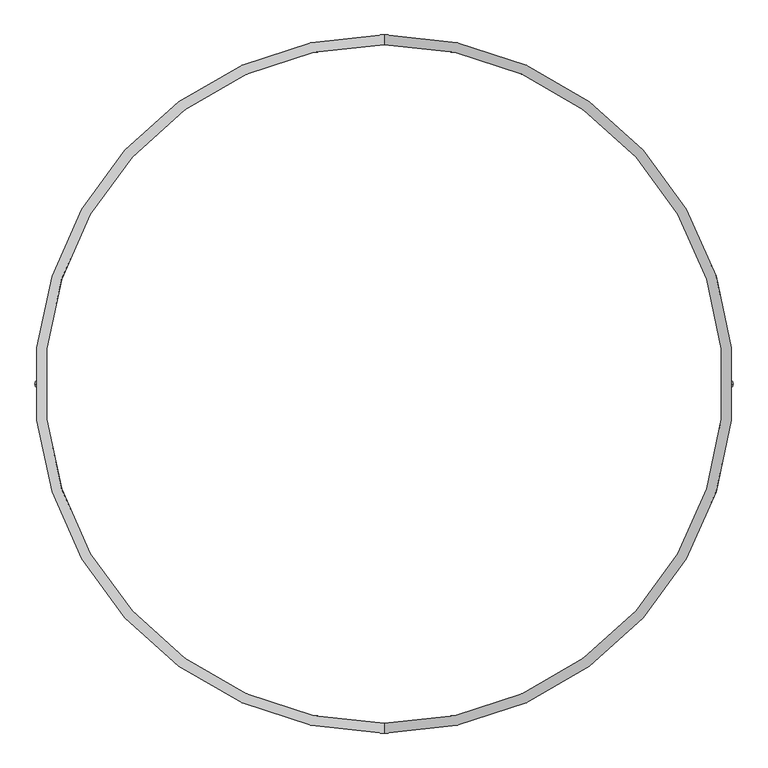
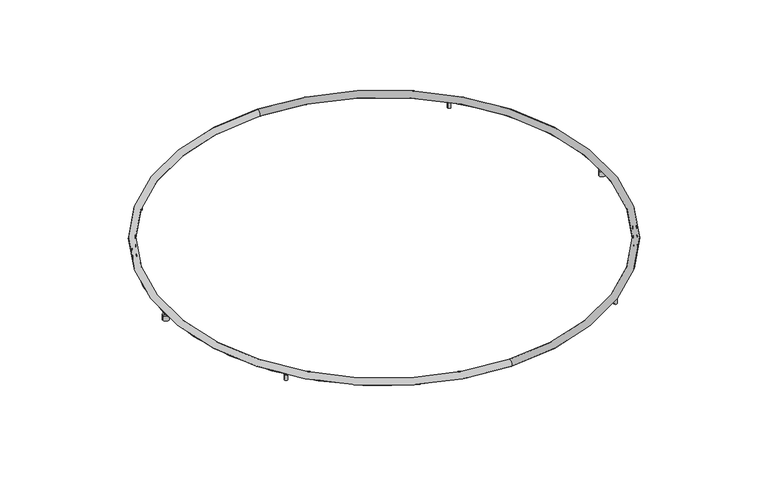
"""IFC4 building model written with IfcOpenShell, lengths in millimetres: light fixture geometry, ARTEMIDE-AoL-StandAlone-Circular_WallCeiling : StandALone_SemiRecessed_Circular-3500mm 21478lm 3000K."""

from ifc_helpers import new_model, si_unit, point, frame, origin, place, context, project, spatial, polyline, circle_curve, ellipse_curve, trimmed, source, transform, mapped, element, save
from ifc_brep_helpers import plane_surface, cylinder_surface, revolved_surface, advanced_brep


def light_fixture_23e87f60(model_context):
    return source(origin(), model_context, "Body", "AdvancedBrep", [
        advanced_brep(
        [(3450.0, 0.0, 54.0), (3462.0, 0.0, 54.0), (3438.0, 0.0, 54.0), (3425.0, 0.0, 0.0), (3475.0, 0.0, 0.0), (3450.0, 0.0, 0.0), (3425.0, 0.0, 37.5120373), (3475.0, 0.0, 37.5120373), (3438.0, 0.0, 44.4453706), (3462.0, 0.0, 44.4453706)],
        [
            (0, 1),
            (1, 2, circle_curve(frame((3450.0, 0.0, 54.0), z_axis=(0.0, 0.0, 1.0), x_axis=(1.0, 0.0, 0.0)), 12.0)),
            (2, 0),
            (2, 1, circle_curve(frame((3450.0, 0.0, 54.0), z_axis=(0.0, 0.0, 1.0), x_axis=(1.0, 0.0, 0.0)), 12.0)),
            (3, 4, circle_curve(frame((3450.0, 0.0, 0.0), z_axis=(0.0, 0.0, -1.0), x_axis=(1.0, 0.0, 0.0)), 25.0)),
            (4, 5),
            (5, 3),
            (4, 3, circle_curve(frame((3450.0, 0.0, 0.0), z_axis=(0.0, 0.0, -1.0), x_axis=(1.0, 0.0, 0.0)), 25.0)),
            (6, 7, circle_curve(frame((3450.0, 0.0, 37.5120373), z_axis=(0.0, 0.0, -1.0), x_axis=(1.0, 0.0, 0.0)), 25.0)),
            (7, 4),
            (3, 6),
            (7, 6, circle_curve(frame((3450.0, 0.0, 37.5120373), z_axis=(0.0, 0.0, -1.0), x_axis=(1.0, 0.0, 0.0)), 25.0)),
            (8, 9, circle_curve(frame((3450.0, 0.0, 44.4453706), z_axis=(0.0, 0.0, -1.0), x_axis=(1.0, 0.0, 0.0)), 12.0)),
            (9, 7),
            (6, 8),
            (9, 8, circle_curve(frame((3450.0, 0.0, 44.4453706), z_axis=(0.0, 0.0, -1.0), x_axis=(1.0, 0.0, 0.0)), 12.0)),
            (1, 9),
            (8, 2),
        ],
        [
            plane_surface(frame((3450.0, 0.0, 54.0), z_axis=(0.0, 0.0, 1.0), x_axis=(1.0, 0.0, 0.0))),
            plane_surface(frame((3450.0, 0.0, 0.0), z_axis=(0.0, 0.0, -1.0), x_axis=(1.0, 0.0, 0.0))),
            cylinder_surface(frame((3450.0, 0.0, -58.83358), z_axis=(0.0, 0.0, 1.0), x_axis=(1.0, 0.0, 0.0)), 25.0),
            revolved_surface(polyline([(3475.0, 0.0, 37.5120373), (3462.0, 0.0, 44.4453706)]), (3450.0, 0.0, -58.83358), (0.0, 0.0, 1.0)),
            cylinder_surface(frame((3450.0, 0.0, -58.83358), z_axis=(0.0, 0.0, 1.0), x_axis=(1.0, 0.0, 0.0)), 12.0),
        ],
        [
            (0, [[1, 2, 3]]),
            (0, [[-3, 4, -1]]),
            (1, [[5, 6, 7]]),
            (1, [[8, -7, -6]]),
            (2, [[9, 10, -5, 11]]),
            (2, [[12, -11, -8, -10]]),
            (3, [[13, 14, -9, 15]]),
            (3, [[16, -15, -12, -14]]),
            (4, [[-2, 17, -13, 18]]),
            (4, [[-4, -18, -16, -17]]),
        ],
    ),
        advanced_brep(
        [(0.0, 0.0, 54.0), (12.0, 0.0, 54.0), (-12.0, 0.0, 54.0), (-25.0, 0.0, 0.0), (25.0, 0.0, 0.0), (0.0, 0.0, 0.0), (-25.0, 0.0, 37.5120373), (25.0, 0.0, 37.5120373), (-12.0, 0.0, 44.4453706), (12.0, 0.0, 44.4453706)],
        [
            (0, 1),
            (1, 2, circle_curve(frame((0.0, 0.0, 54.0), z_axis=(0.0, 0.0, 1.0), x_axis=(1.0, 0.0, 0.0)), 12.0)),
            (2, 0),
            (2, 1, circle_curve(frame((0.0, 0.0, 54.0), z_axis=(0.0, 0.0, 1.0), x_axis=(1.0, 0.0, 0.0)), 12.0)),
            (3, 4, circle_curve(frame((0.0, 0.0, 0.0), z_axis=(0.0, 0.0, -1.0), x_axis=(1.0, 0.0, 0.0)), 25.0)),
            (4, 5),
            (5, 3),
            (4, 3, circle_curve(frame((0.0, 0.0, 0.0), z_axis=(0.0, 0.0, -1.0), x_axis=(1.0, 0.0, 0.0)), 25.0)),
            (6, 7, circle_curve(frame((0.0, 0.0, 37.5120373), z_axis=(0.0, 0.0, -1.0), x_axis=(1.0, 0.0, 0.0)), 25.0)),
            (7, 4),
            (3, 6),
            (7, 6, circle_curve(frame((0.0, 0.0, 37.5120373), z_axis=(0.0, 0.0, -1.0), x_axis=(1.0, 0.0, 0.0)), 25.0)),
            (8, 9, circle_curve(frame((0.0, 0.0, 44.4453706), z_axis=(0.0, 0.0, -1.0), x_axis=(1.0, 0.0, 0.0)), 12.0)),
            (9, 7),
            (6, 8),
            (9, 8, circle_curve(frame((0.0, 0.0, 44.4453706), z_axis=(0.0, 0.0, -1.0), x_axis=(1.0, 0.0, 0.0)), 12.0)),
            (1, 9),
            (8, 2),
        ],
        [
            plane_surface(frame((0.0, 0.0, 54.0), z_axis=(0.0, 0.0, 1.0), x_axis=(1.0, 0.0, 0.0))),
            plane_surface(frame((0.0, 0.0, 0.0), z_axis=(0.0, 0.0, -1.0), x_axis=(1.0, 0.0, 0.0))),
            cylinder_surface(frame((0.0, 0.0, -58.83358), z_axis=(0.0, 0.0, 1.0), x_axis=(1.0, 0.0, 0.0)), 25.0),
            revolved_surface(polyline([(25.0, 0.0, 37.5120373), (12.0, 0.0, 44.4453706)]), (0.0, 0.0, -58.83358), (0.0, 0.0, 1.0)),
            cylinder_surface(frame((0.0, 0.0, -58.83358), z_axis=(0.0, 0.0, 1.0), x_axis=(1.0, 0.0, 0.0)), 12.0),
        ],
        [
            (0, [[1, 2, 3]]),
            (0, [[-3, 4, -1]]),
            (1, [[5, 6, 7]]),
            (1, [[8, -7, -6]]),
            (2, [[9, 10, -5, 11]]),
            (2, [[12, -11, -8, -10]]),
            (3, [[13, 14, -9, 15]]),
            (3, [[16, -15, -12, -14]]),
            (4, [[-2, 17, -13, 18]]),
            (4, [[-4, -18, -16, -17]]),
        ],
    ),
        advanced_brep(
        [(510.5, 1219.7591975, 0.0), (499.5, 1219.7591975, 0.0), (505.0, 1219.7591975, 0.0), (510.5, 1219.7591975, 1.0), (499.5, 1219.7591975, 1.0), (517.0, 1219.7591975, 1.0), (493.0, 1219.7591975, 1.0), (517.0, 1219.7591975, 42.5), (493.0, 1219.7591975, 42.5), (514.5243756, 1219.7591975, 42.5), (495.4756244, 1219.7591975, 42.5), (514.5243756, 1219.7591975, 43.4995055), (495.4756244, 1219.7591975, 43.4995055), (517.0, 1219.7591975, 43.4995055), (493.0, 1219.7591975, 43.4995055), (517.0, 1219.7591975, 52.9579379), (493.0, 1219.7591975, 52.9579379), (505.0, 1219.7591975, 52.9579379)],
        [
            (0, 1, circle_curve(frame((505.0, 1219.7591975, 0.0), z_axis=(0.0, 0.0, -1.0), x_axis=(-1.0, 0.0, 0.0)), 5.5)),
            (1, 2),
            (2, 0),
            (1, 0, circle_curve(frame((505.0, 1219.7591975, 0.0), z_axis=(0.0, 0.0, -1.0), x_axis=(-1.0, 0.0, 0.0)), 5.5)),
            (3, 4, circle_curve(frame((505.0, 1219.7591975, 1.0), z_axis=(0.0, 0.0, -1.0), x_axis=(-1.0, 0.0, 0.0)), 5.5)),
            (4, 1),
            (0, 3),
            (4, 3, circle_curve(frame((505.0, 1219.7591975, 1.0), z_axis=(0.0, 0.0, -1.0), x_axis=(-1.0, 0.0, 0.0)), 5.5)),
            (5, 6, circle_curve(frame((505.0, 1219.7591975, 1.0), z_axis=(0.0, 0.0, -1.0), x_axis=(-1.0, 0.0, 0.0)), 12.0)),
            (6, 4),
            (3, 5),
            (6, 5, circle_curve(frame((505.0, 1219.7591975, 1.0), z_axis=(0.0, 0.0, -1.0), x_axis=(-1.0, 0.0, 0.0)), 12.0)),
            (7, 8, circle_curve(frame((505.0, 1219.7591975, 42.5), z_axis=(0.0, 0.0, -1.0), x_axis=(-1.0, 0.0, 0.0)), 12.0)),
            (8, 6),
            (5, 7),
            (8, 7, circle_curve(frame((505.0, 1219.7591975, 42.5), z_axis=(0.0, 0.0, -1.0), x_axis=(-1.0, 0.0, 0.0)), 12.0)),
            (9, 10, circle_curve(frame((505.0, 1219.7591975, 42.5), z_axis=(0.0, 0.0, -1.0), x_axis=(-1.0, 0.0, 0.0)), 9.5243756)),
            (10, 8),
            (7, 9),
            (10, 9, circle_curve(frame((505.0, 1219.7591975, 42.5), z_axis=(0.0, 0.0, -1.0), x_axis=(-1.0, 0.0, 0.0)), 9.5243756)),
            (11, 12, circle_curve(frame((505.0, 1219.7591975, 43.4995055), z_axis=(0.0, 0.0, -1.0), x_axis=(-1.0, 0.0, 0.0)), 9.5243756)),
            (12, 10),
            (9, 11),
            (12, 11, circle_curve(frame((505.0, 1219.7591975, 43.4995055), z_axis=(0.0, 0.0, -1.0), x_axis=(-1.0, 0.0, 0.0)), 9.5243756)),
            (13, 14, circle_curve(frame((505.0, 1219.7591975, 43.4995055), z_axis=(0.0, 0.0, -1.0), x_axis=(-1.0, 0.0, 0.0)), 12.0)),
            (14, 12),
            (11, 13),
            (14, 13, circle_curve(frame((505.0, 1219.7591975, 43.4995055), z_axis=(0.0, 0.0, -1.0), x_axis=(-1.0, 0.0, 0.0)), 12.0)),
            (15, 16, circle_curve(frame((505.0, 1219.7591975, 52.9579379), z_axis=(0.0, 0.0, -1.0), x_axis=(-1.0, 0.0, 0.0)), 12.0)),
            (16, 14),
            (13, 15),
            (16, 15, circle_curve(frame((505.0, 1219.7591975, 52.9579379), z_axis=(0.0, 0.0, -1.0), x_axis=(-1.0, 0.0, 0.0)), 12.0)),
            (17, 16),
            (15, 17),
        ],
        [
            plane_surface(frame((505.0, 1219.7591975, 0.0), z_axis=(0.0, 0.0, -1.0), x_axis=(-1.0, 0.0, 0.0))),
            cylinder_surface(frame((505.0, 1219.7591975, -58.83358), z_axis=(0.0, 0.0, 1.0), x_axis=(-1.0, 0.0, 0.0)), 5.5),
            plane_surface(frame((505.0, 1219.7591975, 1.0), z_axis=(0.0, 0.0, -1.0), x_axis=(-1.0, 0.0, 0.0))),
            cylinder_surface(frame((505.0, 1219.7591975, -58.83358), z_axis=(0.0, 0.0, 1.0), x_axis=(-1.0, 0.0, 0.0)), 12.0),
            plane_surface(frame((505.0, 1219.7591975, 42.5), z_axis=(0.0, 0.0, 1.0), x_axis=(-1.0, 0.0, 0.0))),
            cylinder_surface(frame((505.0, 1219.7591975, -58.83358), z_axis=(0.0, 0.0, 1.0), x_axis=(-1.0, 0.0, 0.0)), 9.5243756),
            plane_surface(frame((505.0, 1219.7591975, 43.4995055), z_axis=(0.0, 0.0, -1.0), x_axis=(-1.0, 0.0, 0.0))),
            plane_surface(frame((505.0, 1219.7591975, 52.9579379), z_axis=(0.0, 0.0, 1.0), x_axis=(-1.0, 0.0, 0.0))),
        ],
        [
            (0, [[1, 2, 3]]),
            (0, [[4, -3, -2]]),
            (1, [[5, 6, -1, 7]]),
            (1, [[8, -7, -4, -6]]),
            (2, [[9, 10, -5, 11]]),
            (2, [[12, -11, -8, -10]]),
            (3, [[13, 14, -9, 15]]),
            (3, [[16, -15, -12, -14]]),
            (4, [[17, 18, -13, 19]]),
            (4, [[20, -19, -16, -18]]),
            (5, [[21, 22, -17, 23]]),
            (5, [[24, -23, -20, -22]]),
            (6, [[25, 26, -21, 27]]),
            (6, [[28, -27, -24, -26]]),
            (3, [[29, 30, -25, 31]]),
            (3, [[32, -31, -28, -30]]),
            (7, [[33, -29, 34]]),
            (7, [[-34, -32, -33]]),
        ],
    ),
        advanced_brep(
        [(2950.5, 1219.7591975, 0.0), (2939.5, 1219.7591975, 0.0), (2945.0, 1219.7591975, 0.0), (2950.5, 1219.7591975, 1.0), (2939.5, 1219.7591975, 1.0), (2957.0, 1219.7591975, 1.0), (2933.0, 1219.7591975, 1.0), (2957.0, 1219.7591975, 42.5), (2933.0, 1219.7591975, 42.5), (2954.5243756, 1219.7591975, 42.5), (2935.4756244, 1219.7591975, 42.5), (2954.5243756, 1219.7591975, 43.4995055), (2935.4756244, 1219.7591975, 43.4995055), (2957.0, 1219.7591975, 43.4995055), (2933.0, 1219.7591975, 43.4995055), (2957.0, 1219.7591975, 52.9579379), (2933.0, 1219.7591975, 52.9579379), (2945.0, 1219.7591975, 52.9579379)],
        [
            (0, 1, circle_curve(frame((2945.0, 1219.7591975, 0.0), z_axis=(0.0, 0.0, -1.0), x_axis=(-1.0, 0.0, 0.0)), 5.5)),
            (1, 2),
            (2, 0),
            (1, 0, circle_curve(frame((2945.0, 1219.7591975, 0.0), z_axis=(0.0, 0.0, -1.0), x_axis=(-1.0, 0.0, 0.0)), 5.5)),
            (3, 4, circle_curve(frame((2945.0, 1219.7591975, 1.0), z_axis=(0.0, 0.0, -1.0), x_axis=(-1.0, 0.0, 0.0)), 5.5)),
            (4, 1),
            (0, 3),
            (4, 3, circle_curve(frame((2945.0, 1219.7591975, 1.0), z_axis=(0.0, 0.0, -1.0), x_axis=(-1.0, 0.0, 0.0)), 5.5)),
            (5, 6, circle_curve(frame((2945.0, 1219.7591975, 1.0), z_axis=(0.0, 0.0, -1.0), x_axis=(-1.0, 0.0, 0.0)), 12.0)),
            (6, 4),
            (3, 5),
            (6, 5, circle_curve(frame((2945.0, 1219.7591975, 1.0), z_axis=(0.0, 0.0, -1.0), x_axis=(-1.0, 0.0, 0.0)), 12.0)),
            (7, 8, circle_curve(frame((2945.0, 1219.7591975, 42.5), z_axis=(0.0, 0.0, -1.0), x_axis=(-1.0, 0.0, 0.0)), 12.0)),
            (8, 6),
            (5, 7),
            (8, 7, circle_curve(frame((2945.0, 1219.7591975, 42.5), z_axis=(0.0, 0.0, -1.0), x_axis=(-1.0, 0.0, 0.0)), 12.0)),
            (9, 10, circle_curve(frame((2945.0, 1219.7591975, 42.5), z_axis=(0.0, 0.0, -1.0), x_axis=(-1.0, 0.0, 0.0)), 9.5243756)),
            (10, 8),
            (7, 9),
            (10, 9, circle_curve(frame((2945.0, 1219.7591975, 42.5), z_axis=(0.0, 0.0, -1.0), x_axis=(-1.0, 0.0, 0.0)), 9.5243756)),
            (11, 12, circle_curve(frame((2945.0, 1219.7591975, 43.4995055), z_axis=(0.0, 0.0, -1.0), x_axis=(-1.0, 0.0, 0.0)), 9.5243756)),
            (12, 10),
            (9, 11),
            (12, 11, circle_curve(frame((2945.0, 1219.7591975, 43.4995055), z_axis=(0.0, 0.0, -1.0), x_axis=(-1.0, 0.0, 0.0)), 9.5243756)),
            (13, 14, circle_curve(frame((2945.0, 1219.7591975, 43.4995055), z_axis=(0.0, 0.0, -1.0), x_axis=(-1.0, 0.0, 0.0)), 12.0)),
            (14, 12),
            (11, 13),
            (14, 13, circle_curve(frame((2945.0, 1219.7591975, 43.4995055), z_axis=(0.0, 0.0, -1.0), x_axis=(-1.0, 0.0, 0.0)), 12.0)),
            (15, 16, circle_curve(frame((2945.0, 1219.7591975, 52.9579379), z_axis=(0.0, 0.0, -1.0), x_axis=(-1.0, 0.0, 0.0)), 12.0)),
            (16, 14),
            (13, 15),
            (16, 15, circle_curve(frame((2945.0, 1219.7591975, 52.9579379), z_axis=(0.0, 0.0, -1.0), x_axis=(-1.0, 0.0, 0.0)), 12.0)),
            (17, 16),
            (15, 17),
        ],
        [
            plane_surface(frame((2945.0, 1219.7591975, 0.0), z_axis=(0.0, 0.0, -1.0), x_axis=(-1.0, 0.0, 0.0))),
            cylinder_surface(frame((2945.0, 1219.7591975, -58.83358), z_axis=(0.0, 0.0, 1.0), x_axis=(-1.0, 0.0, 0.0)), 5.5),
            plane_surface(frame((2945.0, 1219.7591975, 1.0), z_axis=(0.0, 0.0, -1.0), x_axis=(-1.0, 0.0, 0.0))),
            cylinder_surface(frame((2945.0, 1219.7591975, -58.83358), z_axis=(0.0, 0.0, 1.0), x_axis=(-1.0, 0.0, 0.0)), 12.0),
            plane_surface(frame((2945.0, 1219.7591975, 42.5), z_axis=(0.0, 0.0, 1.0), x_axis=(-1.0, 0.0, 0.0))),
            cylinder_surface(frame((2945.0, 1219.7591975, -58.83358), z_axis=(0.0, 0.0, 1.0), x_axis=(-1.0, 0.0, 0.0)), 9.5243756),
            plane_surface(frame((2945.0, 1219.7591975, 43.4995055), z_axis=(0.0, 0.0, -1.0), x_axis=(-1.0, 0.0, 0.0))),
            plane_surface(frame((2945.0, 1219.7591975, 52.9579379), z_axis=(0.0, 0.0, 1.0), x_axis=(-1.0, 0.0, 0.0))),
        ],
        [
            (0, [[1, 2, 3]]),
            (0, [[4, -3, -2]]),
            (1, [[5, 6, -1, 7]]),
            (1, [[8, -7, -4, -6]]),
            (2, [[9, 10, -5, 11]]),
            (2, [[12, -11, -8, -10]]),
            (3, [[13, 14, -9, 15]]),
            (3, [[16, -15, -12, -14]]),
            (4, [[17, 18, -13, 19]]),
            (4, [[20, -19, -16, -18]]),
            (5, [[21, 22, -17, 23]]),
            (5, [[24, -23, -20, -22]]),
            (6, [[25, 26, -21, 27]]),
            (6, [[28, -27, -24, -26]]),
            (3, [[29, 30, -25, 31]]),
            (3, [[32, -31, -28, -30]]),
            (7, [[33, -29, 34]]),
            (7, [[-34, -32, -33]]),
        ],
    ),
        advanced_brep(
        [(355.5, -1038.0, 0.0), (344.5, -1038.0, 0.0), (350.0, -1038.0, 0.0), (355.5, -1038.0, 1.0), (344.5, -1038.0, 1.0), (362.0, -1038.0, 1.0), (338.0, -1038.0, 1.0), (362.0, -1038.0, 42.5), (338.0, -1038.0, 42.5), (359.5243756, -1038.0, 42.5), (340.4756244, -1038.0, 42.5), (359.5243756, -1038.0, 43.4995055), (340.4756244, -1038.0, 43.4995055), (362.0, -1038.0, 43.4995055), (338.0, -1038.0, 43.4995055), (362.0, -1038.0, 52.9579379), (338.0, -1038.0, 52.9579379), (350.0, -1038.0, 52.9579379)],
        [
            (0, 1, circle_curve(frame((350.0, -1038.0, 0.0), z_axis=(0.0, 0.0, -1.0), x_axis=(-1.0, 0.0, 0.0)), 5.5)),
            (1, 2),
            (2, 0),
            (1, 0, circle_curve(frame((350.0, -1038.0, 0.0), z_axis=(0.0, 0.0, -1.0), x_axis=(-1.0, 0.0, 0.0)), 5.5)),
            (3, 4, circle_curve(frame((350.0, -1038.0, 1.0), z_axis=(0.0, 0.0, -1.0), x_axis=(-1.0, 0.0, 0.0)), 5.5)),
            (4, 1),
            (0, 3),
            (4, 3, circle_curve(frame((350.0, -1038.0, 1.0), z_axis=(0.0, 0.0, -1.0), x_axis=(-1.0, 0.0, 0.0)), 5.5)),
            (5, 6, circle_curve(frame((350.0, -1038.0, 1.0), z_axis=(0.0, 0.0, -1.0), x_axis=(-1.0, 0.0, 0.0)), 12.0)),
            (6, 4),
            (3, 5),
            (6, 5, circle_curve(frame((350.0, -1038.0, 1.0), z_axis=(0.0, 0.0, -1.0), x_axis=(-1.0, 0.0, 0.0)), 12.0)),
            (7, 8, circle_curve(frame((350.0, -1038.0, 42.5), z_axis=(0.0, 0.0, -1.0), x_axis=(-1.0, 0.0, 0.0)), 12.0)),
            (8, 6),
            (5, 7),
            (8, 7, circle_curve(frame((350.0, -1038.0, 42.5), z_axis=(0.0, 0.0, -1.0), x_axis=(-1.0, 0.0, 0.0)), 12.0)),
            (9, 10, circle_curve(frame((350.0, -1038.0, 42.5), z_axis=(0.0, 0.0, -1.0), x_axis=(-1.0, 0.0, 0.0)), 9.5243756)),
            (10, 8),
            (7, 9),
            (10, 9, circle_curve(frame((350.0, -1038.0, 42.5), z_axis=(0.0, 0.0, -1.0), x_axis=(-1.0, 0.0, 0.0)), 9.5243756)),
            (11, 12, circle_curve(frame((350.0, -1038.0, 43.4995055), z_axis=(0.0, 0.0, -1.0), x_axis=(-1.0, 0.0, 0.0)), 9.5243756)),
            (12, 10),
            (9, 11),
            (12, 11, circle_curve(frame((350.0, -1038.0, 43.4995055), z_axis=(0.0, 0.0, -1.0), x_axis=(-1.0, 0.0, 0.0)), 9.5243756)),
            (13, 14, circle_curve(frame((350.0, -1038.0, 43.4995055), z_axis=(0.0, 0.0, -1.0), x_axis=(-1.0, 0.0, 0.0)), 12.0)),
            (14, 12),
            (11, 13),
            (14, 13, circle_curve(frame((350.0, -1038.0, 43.4995055), z_axis=(0.0, 0.0, -1.0), x_axis=(-1.0, 0.0, 0.0)), 12.0)),
            (15, 16, circle_curve(frame((350.0, -1038.0, 52.9579379), z_axis=(0.0, 0.0, -1.0), x_axis=(-1.0, 0.0, 0.0)), 12.0)),
            (16, 14),
            (13, 15),
            (16, 15, circle_curve(frame((350.0, -1038.0, 52.9579379), z_axis=(0.0, 0.0, -1.0), x_axis=(-1.0, 0.0, 0.0)), 12.0)),
            (17, 16),
            (15, 17),
        ],
        [
            plane_surface(frame((350.0, -1038.0, 0.0), z_axis=(0.0, 0.0, -1.0), x_axis=(-1.0, 0.0, 0.0))),
            cylinder_surface(frame((350.0, -1038.0, -58.83358), z_axis=(0.0, 0.0, 1.0), x_axis=(-1.0, 0.0, 0.0)), 5.5),
            plane_surface(frame((350.0, -1038.0, 1.0), z_axis=(0.0, 0.0, -1.0), x_axis=(-1.0, 0.0, 0.0))),
            cylinder_surface(frame((350.0, -1038.0, -58.83358), z_axis=(0.0, 0.0, 1.0), x_axis=(-1.0, 0.0, 0.0)), 12.0),
            plane_surface(frame((350.0, -1038.0, 42.5), z_axis=(0.0, 0.0, 1.0), x_axis=(-1.0, 0.0, 0.0))),
            cylinder_surface(frame((350.0, -1038.0, -58.83358), z_axis=(0.0, 0.0, 1.0), x_axis=(-1.0, 0.0, 0.0)), 9.5243756),
            plane_surface(frame((350.0, -1038.0, 43.4995055), z_axis=(0.0, 0.0, -1.0), x_axis=(-1.0, 0.0, 0.0))),
            plane_surface(frame((350.0, -1038.0, 52.9579379), z_axis=(0.0, 0.0, 1.0), x_axis=(-1.0, 0.0, 0.0))),
        ],
        [
            (0, [[1, 2, 3]]),
            (0, [[4, -3, -2]]),
            (1, [[5, 6, -1, 7]]),
            (1, [[8, -7, -4, -6]]),
            (2, [[9, 10, -5, 11]]),
            (2, [[12, -11, -8, -10]]),
            (3, [[13, 14, -9, 15]]),
            (3, [[16, -15, -12, -14]]),
            (4, [[17, 18, -13, 19]]),
            (4, [[20, -19, -16, -18]]),
            (5, [[21, 22, -17, 23]]),
            (5, [[24, -23, -20, -22]]),
            (6, [[25, 26, -21, 27]]),
            (6, [[28, -27, -24, -26]]),
            (3, [[29, 30, -25, 31]]),
            (3, [[32, -31, -28, -30]]),
            (7, [[33, -29, 34]]),
            (7, [[-34, -32, -33]]),
        ],
    ),
        advanced_brep(
        [(2765.5, -1377.5, 0.0), (2754.5, -1377.5, 0.0), (2760.0, -1377.5, 0.0), (2765.5, -1377.5, 1.0), (2754.5, -1377.5, 1.0), (2772.0, -1377.5, 1.0), (2748.0, -1377.5, 1.0), (2772.0, -1377.5, 42.5), (2748.0, -1377.5, 42.5), (2769.5243756, -1377.5, 42.5), (2750.4756244, -1377.5, 42.5), (2769.5243756, -1377.5, 43.4995055), (2750.4756244, -1377.5, 43.4995055), (2772.0, -1377.5, 43.4995055), (2748.0, -1377.5, 43.4995055), (2772.0, -1377.5, 52.9579379), (2748.0, -1377.5, 52.9579379), (2760.0, -1377.5, 52.9579379)],
        [
            (0, 1, circle_curve(frame((2760.0, -1377.5, 0.0), z_axis=(0.0, 0.0, -1.0), x_axis=(-1.0, 0.0, 0.0)), 5.5)),
            (1, 2),
            (2, 0),
            (1, 0, circle_curve(frame((2760.0, -1377.5, 0.0), z_axis=(0.0, 0.0, -1.0), x_axis=(-1.0, 0.0, 0.0)), 5.5)),
            (3, 4, circle_curve(frame((2760.0, -1377.5, 1.0), z_axis=(0.0, 0.0, -1.0), x_axis=(-1.0, 0.0, 0.0)), 5.5)),
            (4, 1),
            (0, 3),
            (4, 3, circle_curve(frame((2760.0, -1377.5, 1.0), z_axis=(0.0, 0.0, -1.0), x_axis=(-1.0, 0.0, 0.0)), 5.5)),
            (5, 6, circle_curve(frame((2760.0, -1377.5, 1.0), z_axis=(0.0, 0.0, -1.0), x_axis=(-1.0, 0.0, 0.0)), 12.0)),
            (6, 4),
            (3, 5),
            (6, 5, circle_curve(frame((2760.0, -1377.5, 1.0), z_axis=(0.0, 0.0, -1.0), x_axis=(-1.0, 0.0, 0.0)), 12.0)),
            (7, 8, circle_curve(frame((2760.0, -1377.5, 42.5), z_axis=(0.0, 0.0, -1.0), x_axis=(-1.0, 0.0, 0.0)), 12.0)),
            (8, 6),
            (5, 7),
            (8, 7, circle_curve(frame((2760.0, -1377.5, 42.5), z_axis=(0.0, 0.0, -1.0), x_axis=(-1.0, 0.0, 0.0)), 12.0)),
            (9, 10, circle_curve(frame((2760.0, -1377.5, 42.5), z_axis=(0.0, 0.0, -1.0), x_axis=(-1.0, 0.0, 0.0)), 9.5243756)),
            (10, 8),
            (7, 9),
            (10, 9, circle_curve(frame((2760.0, -1377.5, 42.5), z_axis=(0.0, 0.0, -1.0), x_axis=(-1.0, 0.0, 0.0)), 9.5243756)),
            (11, 12, circle_curve(frame((2760.0, -1377.5, 43.4995055), z_axis=(0.0, 0.0, -1.0), x_axis=(-1.0, 0.0, 0.0)), 9.5243756)),
            (12, 10),
            (9, 11),
            (12, 11, circle_curve(frame((2760.0, -1377.5, 43.4995055), z_axis=(0.0, 0.0, -1.0), x_axis=(-1.0, 0.0, 0.0)), 9.5243756)),
            (13, 14, circle_curve(frame((2760.0, -1377.5, 43.4995055), z_axis=(0.0, 0.0, -1.0), x_axis=(-1.0, 0.0, 0.0)), 12.0)),
            (14, 12),
            (11, 13),
            (14, 13, circle_curve(frame((2760.0, -1377.5, 43.4995055), z_axis=(0.0, 0.0, -1.0), x_axis=(-1.0, 0.0, 0.0)), 12.0)),
            (15, 16, circle_curve(frame((2760.0, -1377.5, 52.9579379), z_axis=(0.0, 0.0, -1.0), x_axis=(-1.0, 0.0, 0.0)), 12.0)),
            (16, 14),
            (13, 15),
            (16, 15, circle_curve(frame((2760.0, -1377.5, 52.9579379), z_axis=(0.0, 0.0, -1.0), x_axis=(-1.0, 0.0, 0.0)), 12.0)),
            (17, 16),
            (15, 17),
        ],
        [
            plane_surface(frame((2760.0, -1377.5, 0.0), z_axis=(0.0, 0.0, -1.0), x_axis=(-1.0, 0.0, 0.0))),
            cylinder_surface(frame((2760.0, -1377.5, -58.83358), z_axis=(0.0, 0.0, 1.0), x_axis=(-1.0, 0.0, 0.0)), 5.5),
            plane_surface(frame((2760.0, -1377.5, 1.0), z_axis=(0.0, 0.0, -1.0), x_axis=(-1.0, 0.0, 0.0))),
            cylinder_surface(frame((2760.0, -1377.5, -58.83358), z_axis=(0.0, 0.0, 1.0), x_axis=(-1.0, 0.0, 0.0)), 12.0),
            plane_surface(frame((2760.0, -1377.5, 42.5), z_axis=(0.0, 0.0, 1.0), x_axis=(-1.0, 0.0, 0.0))),
            cylinder_surface(frame((2760.0, -1377.5, -58.83358), z_axis=(0.0, 0.0, 1.0), x_axis=(-1.0, 0.0, 0.0)), 9.5243756),
            plane_surface(frame((2760.0, -1377.5, 43.4995055), z_axis=(0.0, 0.0, -1.0), x_axis=(-1.0, 0.0, 0.0))),
            plane_surface(frame((2760.0, -1377.5, 52.9579379), z_axis=(0.0, 0.0, 1.0), x_axis=(-1.0, 0.0, 0.0))),
        ],
        [
            (0, [[1, 2, 3]]),
            (0, [[4, -3, -2]]),
            (1, [[5, 6, -1, 7]]),
            (1, [[8, -7, -4, -6]]),
            (2, [[9, 10, -5, 11]]),
            (2, [[12, -11, -8, -10]]),
            (3, [[13, 14, -9, 15]]),
            (3, [[16, -15, -12, -14]]),
            (4, [[17, 18, -13, 19]]),
            (4, [[20, -19, -16, -18]]),
            (5, [[21, 22, -17, 23]]),
            (5, [[24, -23, -20, -22]]),
            (6, [[25, 26, -21, 27]]),
            (6, [[28, -27, -24, -26]]),
            (3, [[29, 30, -25, 31]]),
            (3, [[32, -31, -28, -30]]),
            (7, [[33, -29, 34]]),
            (7, [[-34, -32, -33]]),
        ],
    ),
        advanced_brep(
        [(1725.3445739, -1713.1969999, 52.9151372), (1725.3445739, 1713.3030001, 52.9151372), (1725.3445739, 1736.8030001, 52.9151372), (1725.3445739, -1736.6969999, 52.9151372), (1725.3445739, -1713.1969999, 57.2410096), (1725.3445739, 1713.3030001, 57.2410096), (1725.3445739, -1711.2792459, 55.8106819), (1725.3445739, 1711.3852461, 55.8106819), (1725.3445739, 1711.3852461, 57.2410096), (1725.3445739, -1711.2792459, 57.2410096), (1725.3445739, -1709.3292459, 57.2258724), (1725.3445739, 1709.4352461, 57.2258724), (1725.3445739, -1709.3292459, 59.2258716), (1725.3445739, 1709.4352461, 59.2258716), (1725.3445739, -1712.2792459, 60.7258716), (1725.3445739, 1712.3852461, 60.7258716), (1725.3445739, 1712.3852461, 59.2258716), (1725.3445739, -1712.2792459, 59.2258716), (1725.3445739, -1742.2249794, 60.7258716), (1725.3445739, 1742.3309795, 60.7258716), (1725.3445739, 1707.7750206, 60.7258716), (1725.3445739, -1707.6690205, 60.7258716), (1725.3445739, -1737.6147539, 59.2258716), (1725.3445739, 1737.7207541, 59.2258716), (1725.3445739, 1737.7207541, 60.7258716), (1725.3445739, -1737.6147539, 60.7258716), (1725.3445739, -1740.5647539, 57.2258724), (1725.3445739, 1740.6707541, 57.2258724), (1725.3445739, 1740.6707541, 59.2258716), (1725.3445739, -1740.5647539, 59.2258716), (1725.3445739, -1738.6147539, 55.8106819), (1725.3445739, 1738.7207541, 55.8106819), (1725.3445739, -1738.6147539, 57.2410096), (1725.3445739, 1738.7207541, 57.2410096), (1725.3445739, 1736.8030001, 57.2410096), (1725.3445739, -1736.6969999, 57.2410096)],
        [
            (0, 1, circle_curve(frame((1725.3445739, 0.0530001, 52.9151372), z_axis=(0.0, 0.0, -1.0), x_axis=(0.0, 1.0, 0.0)), 1713.25)),
            (1, 2, circle_curve(frame((1725.3445739, 1725.0530001, 74.9817976), z_axis=(-1.0, 0.0, 0.0), x_axis=(0.0, -1.0, 0.0)), 25.0)),
            (2, 3, circle_curve(frame((1725.3445739, 0.0530001, 52.9151372), z_axis=(0.0, 0.0, 1.0), x_axis=(0.0, 1.0, 0.0)), 1736.75)),
            (3, 0, circle_curve(frame((1725.3445739, -1724.9469999, 74.9817976), z_axis=(-1.0, 0.0, 0.0), x_axis=(0.0, 1.0, 0.0)), 25.0)),
            (4, 5, circle_curve(frame((1725.3445739, 0.0530001, 57.2410096), z_axis=(0.0, 0.0, -1.0), x_axis=(0.0, 1.0, 0.0)), 1713.25)),
            (5, 1),
            (0, 4),
            (6, 7, circle_curve(frame((1725.3445739, 0.0530001, 55.8106819), z_axis=(0.0, 0.0, -1.0), x_axis=(0.0, 1.0, 0.0)), 1711.332246)),
            (7, 8),
            (8, 9, circle_curve(frame((1725.3445739, 0.0530001, 57.2410096), z_axis=(0.0, 0.0, 1.0), x_axis=(0.0, 1.0, 0.0)), 1711.332246)),
            (9, 6),
            (10, 11, circle_curve(frame((1725.3445739, 0.0530001, 57.2258724), z_axis=(0.0, 0.0, -1.0), x_axis=(0.0, 1.0, 0.0)), 1709.382246)),
            (11, 7),
            (6, 10),
            (12, 13, circle_curve(frame((1725.3445739, 0.0530001, 59.2258716), z_axis=(0.0, 0.0, -1.0), x_axis=(0.0, 1.0, 0.0)), 1709.382246)),
            (13, 11),
            (10, 12),
            (14, 15, circle_curve(frame((1725.3445739, 0.0530001, 60.7258716), z_axis=(0.0, 0.0, -1.0), x_axis=(0.0, 1.0, 0.0)), 1712.332246)),
            (15, 16),
            (16, 17, circle_curve(frame((1725.3445739, 0.0530001, 59.2258716), z_axis=(0.0, 0.0, 1.0), x_axis=(0.0, 1.0, 0.0)), 1712.332246)),
            (17, 14),
            (18, 19, circle_curve(frame((1725.3445739, 0.0530001, 60.7258716), z_axis=(0.0, 0.0, -1.0), x_axis=(0.0, 1.0, 0.0)), 1742.2779794)),
            (19, 20, circle_curve(frame((1725.3445739, 1725.0530001, 74.9817976), z_axis=(1.0, 0.0, 0.0), x_axis=(0.0, -1.0, 0.0)), 22.4)),
            (20, 21, circle_curve(frame((1725.3445739, 0.0530001, 60.7258716), z_axis=(0.0, 0.0, 1.0), x_axis=(0.0, 1.0, 0.0)), 1707.7220206)),
            (21, 18, circle_curve(frame((1725.3445739, -1724.9469999, 74.9817976), z_axis=(1.0, 0.0, 0.0), x_axis=(0.0, 1.0, 0.0)), 22.4)),
            (22, 23, circle_curve(frame((1725.3445739, 0.0530001, 59.2258716), z_axis=(0.0, 0.0, -1.0), x_axis=(0.0, 1.0, 0.0)), 1737.667754)),
            (23, 24),
            (24, 25, circle_curve(frame((1725.3445739, 0.0530001, 60.7258716), z_axis=(0.0, 0.0, 1.0), x_axis=(0.0, 1.0, 0.0)), 1737.667754)),
            (25, 22),
            (26, 27, circle_curve(frame((1725.3445739, 0.0530001, 57.2258724), z_axis=(0.0, 0.0, -1.0), x_axis=(0.0, 1.0, 0.0)), 1740.617754)),
            (27, 28),
            (28, 29, circle_curve(frame((1725.3445739, 0.0530001, 59.2258716), z_axis=(0.0, 0.0, 1.0), x_axis=(0.0, 1.0, 0.0)), 1740.617754)),
            (29, 26),
            (30, 31, circle_curve(frame((1725.3445739, 0.0530001, 55.8106819), z_axis=(0.0, 0.0, -1.0), x_axis=(0.0, 1.0, 0.0)), 1738.667754)),
            (31, 27),
            (26, 30),
            (32, 33, circle_curve(frame((1725.3445739, 0.0530001, 57.2410096), z_axis=(0.0, 0.0, -1.0), x_axis=(0.0, 1.0, 0.0)), 1738.667754)),
            (33, 31),
            (30, 32),
            (2, 34),
            (34, 35, circle_curve(frame((1725.3445739, 0.0530001, 57.2410096), z_axis=(0.0, 0.0, 1.0), x_axis=(0.0, 1.0, 0.0)), 1736.75)),
            (35, 3),
            (1, 0, circle_curve(frame((1725.3445739, 0.0530001, 52.9151372), z_axis=(0.0, 0.0, -1.0), x_axis=(0.0, -1.0, 0.0)), 1713.25)),
            (3, 2, circle_curve(frame((1725.3445739, 0.0530001, 52.9151372), z_axis=(0.0, 0.0, 1.0), x_axis=(0.0, -1.0, 0.0)), 1736.75)),
            (5, 4, circle_curve(frame((1725.3445739, 0.0530001, 57.2410096), z_axis=(0.0, 0.0, -1.0), x_axis=(0.0, -1.0, 0.0)), 1713.25)),
            (8, 9, circle_curve(frame((1725.3445739, 0.0530001, 57.2410096), z_axis=(0.0, 0.0, -1.0), x_axis=(0.0, -1.0, 0.0)), 1711.332246)),
            (7, 6, circle_curve(frame((1725.3445739, 0.0530001, 55.8106819), z_axis=(0.0, 0.0, -1.0), x_axis=(0.0, -1.0, 0.0)), 1711.332246)),
            (11, 10, circle_curve(frame((1725.3445739, 0.0530001, 57.2258724), z_axis=(0.0, 0.0, -1.0), x_axis=(0.0, -1.0, 0.0)), 1709.382246)),
            (13, 12, circle_curve(frame((1725.3445739, 0.0530001, 59.2258716), z_axis=(0.0, 0.0, -1.0), x_axis=(0.0, -1.0, 0.0)), 1709.382246)),
            (16, 17, circle_curve(frame((1725.3445739, 0.0530001, 59.2258716), z_axis=(0.0, 0.0, -1.0), x_axis=(0.0, -1.0, 0.0)), 1712.332246)),
            (15, 14, circle_curve(frame((1725.3445739, 0.0530001, 60.7258716), z_axis=(0.0, 0.0, -1.0), x_axis=(0.0, -1.0, 0.0)), 1712.332246)),
            (20, 21, circle_curve(frame((1725.3445739, 0.0530001, 60.7258716), z_axis=(0.0, 0.0, -1.0), x_axis=(0.0, -1.0, 0.0)), 1707.7220206)),
            (19, 18, circle_curve(frame((1725.3445739, 0.0530001, 60.7258716), z_axis=(0.0, 0.0, -1.0), x_axis=(0.0, -1.0, 0.0)), 1742.2779794)),
            (24, 25, circle_curve(frame((1725.3445739, 0.0530001, 60.7258716), z_axis=(0.0, 0.0, -1.0), x_axis=(0.0, -1.0, 0.0)), 1737.667754)),
            (23, 22, circle_curve(frame((1725.3445739, 0.0530001, 59.2258716), z_axis=(0.0, 0.0, -1.0), x_axis=(0.0, -1.0, 0.0)), 1737.667754)),
            (28, 29, circle_curve(frame((1725.3445739, 0.0530001, 59.2258716), z_axis=(0.0, 0.0, -1.0), x_axis=(0.0, -1.0, 0.0)), 1740.617754)),
            (27, 26, circle_curve(frame((1725.3445739, 0.0530001, 57.2258724), z_axis=(0.0, 0.0, -1.0), x_axis=(0.0, -1.0, 0.0)), 1740.617754)),
            (31, 30, circle_curve(frame((1725.3445739, 0.0530001, 55.8106819), z_axis=(0.0, 0.0, -1.0), x_axis=(0.0, -1.0, 0.0)), 1738.667754)),
            (33, 32, circle_curve(frame((1725.3445739, 0.0530001, 57.2410096), z_axis=(0.0, 0.0, -1.0), x_axis=(0.0, -1.0, 0.0)), 1738.667754)),
            (34, 35, circle_curve(frame((1725.3445739, 0.0530001, 57.2410096), z_axis=(0.0, 0.0, -1.0), x_axis=(0.0, -1.0, 0.0)), 1736.75)),
        ],
        [
            revolved_surface(trimmed(ellipse_curve(frame((1725.3445739, 1725.0530001, 74.9817976), z_axis=(1.0, 0.0, 0.0), x_axis=(0.0, -1.0, 0.0)), 25.0, 25.0), [point((1725.3445739, 1736.8030001, 52.9151372))], [point((1725.3445739, 1713.3030001, 52.9151372))], True, "CARTESIAN"), (1725.3445739, 0.0530001, 50.0), (0.0, 0.0, 1.0)),
            cylinder_surface(frame((1725.3445739, 0.0530001, 50.0), z_axis=(0.0, 0.0, 1.0), x_axis=(0.0, 1.0, 0.0)), 1713.25),
            revolved_surface(polyline([(1725.3445739, 1711.3852461, 57.2410096), (1725.3445739, 1711.3852461, 55.8106819)]), (1725.3445739, 0.0530001, 50.0), (0.0, 0.0, 1.0)),
            revolved_surface(polyline([(1725.3445739, 1711.3852461, 55.8106819), (1725.3445739, 1709.4352461, 57.2258724)]), (1725.3445739, 0.0530001, 50.0), (0.0, 0.0, 1.0)),
            cylinder_surface(frame((1725.3445739, 0.0530001, 50.0), z_axis=(0.0, 0.0, 1.0), x_axis=(0.0, 1.0, 0.0)), 1709.382246),
            cylinder_surface(frame((1725.3445739, 0.0530001, 50.0), z_axis=(0.0, 0.0, 1.0), x_axis=(0.0, 1.0, 0.0)), 1712.332246),
            revolved_surface(trimmed(ellipse_curve(frame((1725.3445739, 1725.0530001, 74.9817976), z_axis=(-1.0, 0.0, 0.0), x_axis=(0.0, -1.0, 0.0)), 22.4, 22.4), [point((1725.3445739, 1707.7750206, 60.7258716))], [point((1725.3445739, 1742.3309795, 60.7258716))], True, "CARTESIAN"), (1725.3445739, 0.0530001, 50.0), (0.0, 0.0, 1.0)),
            revolved_surface(polyline([(1725.3445739, 1737.7207541, 60.7258716), (1725.3445739, 1737.7207541, 59.2258716)]), (1725.3445739, 0.0530001, 50.0), (0.0, 0.0, 1.0)),
            revolved_surface(polyline([(1725.3445739, 1740.6707541, 59.2258716), (1725.3445739, 1740.6707541, 57.2258724)]), (1725.3445739, 0.0530001, 50.0), (0.0, 0.0, 1.0)),
            revolved_surface(polyline([(1725.3445739, 1740.6707541, 57.2258724), (1725.3445739, 1738.7207541, 55.8106819)]), (1725.3445739, 0.0530001, 50.0), (0.0, 0.0, 1.0)),
            cylinder_surface(frame((1725.3445739, 0.0530001, 50.0), z_axis=(0.0, 0.0, 1.0), x_axis=(0.0, 1.0, 0.0)), 1738.667754),
            revolved_surface(polyline([(1725.3445739, 1736.8030001, 57.2410096), (1725.3445739, 1736.8030001, 52.9151372)]), (1725.3445739, 0.0530001, 50.0), (0.0, 0.0, 1.0)),
            revolved_surface(trimmed(ellipse_curve(frame((1725.3445739, -1724.9469999, 74.9817976), z_axis=(-1.0, 0.0, 0.0), x_axis=(0.0, 1.0, 0.0)), 25.0, 25.0), [point((1725.3445739, -1736.6969999, 52.9151372))], [point((1725.3445739, -1713.1969999, 52.9151372))], True, "CARTESIAN"), (1725.3445739, 0.0530001, 50.0), (0.0, 0.0, 1.0)),
            cylinder_surface(frame((1725.3445739, 0.0530001, 50.0), z_axis=(0.0, 0.0, 1.0), x_axis=(0.0, -1.0, 0.0)), 1713.25),
            plane_surface(frame((1725.3445739, 0.0530001, 57.2410096), z_axis=(0.0, 0.0, 1.0), x_axis=(0.0, -1.0, 0.0))),
            revolved_surface(polyline([(1725.3445739, -1711.2792459, 57.2410096), (1725.3445739, -1711.2792459, 55.8106819)]), (1725.3445739, 0.0530001, 50.0), (0.0, 0.0, 1.0)),
            revolved_surface(polyline([(1725.3445739, -1711.2792459, 55.8106819), (1725.3445739, -1709.3292459, 57.2258724)]), (1725.3445739, 0.0530001, 50.0), (0.0, 0.0, 1.0)),
            cylinder_surface(frame((1725.3445739, 0.0530001, 50.0), z_axis=(0.0, 0.0, 1.0), x_axis=(0.0, -1.0, 0.0)), 1709.382246),
            plane_surface(frame((1725.3445739, 0.0530001, 59.2258716), z_axis=(0.0, 0.0, -1.0), x_axis=(0.0, -1.0, 0.0))),
            cylinder_surface(frame((1725.3445739, 0.0530001, 50.0), z_axis=(0.0, 0.0, 1.0), x_axis=(0.0, -1.0, 0.0)), 1712.332246),
            plane_surface(frame((1725.3445739, 0.0530001, 60.7258716), z_axis=(0.0, 0.0, 1.0), x_axis=(0.0, -1.0, 0.0))),
            revolved_surface(trimmed(ellipse_curve(frame((1725.3445739, -1724.9469999, 74.9817976), z_axis=(1.0, 0.0, 0.0), x_axis=(0.0, 1.0, 0.0)), 22.4, 22.4), [point((1725.3445739, -1707.6690205, 60.7258716))], [point((1725.3445739, -1742.2249794, 60.7258716))], True, "CARTESIAN"), (1725.3445739, 0.0530001, 50.0), (0.0, 0.0, 1.0)),
            revolved_surface(polyline([(1725.3445739, -1737.6147539, 60.7258716), (1725.3445739, -1737.6147539, 59.2258716)]), (1725.3445739, 0.0530001, 50.0), (0.0, 0.0, 1.0)),
            revolved_surface(polyline([(1725.3445739, -1740.5647539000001, 59.2258716), (1725.3445739, -1740.5647539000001, 57.2258724)]), (1725.3445739, 0.0530001, 50.0), (0.0, 0.0, 1.0)),
            revolved_surface(polyline([(1725.3445739, -1740.5647539, 57.2258724), (1725.3445739, -1738.6147539, 55.8106819)]), (1725.3445739, 0.0530001, 50.0), (0.0, 0.0, 1.0)),
            cylinder_surface(frame((1725.3445739, 0.0530001, 50.0), z_axis=(0.0, 0.0, 1.0), x_axis=(0.0, -1.0, 0.0)), 1738.667754),
            revolved_surface(polyline([(1725.3445739, -1736.6969999, 57.2410096), (1725.3445739, -1736.6969999, 52.9151372)]), (1725.3445739, 0.0530001, 50.0), (0.0, 0.0, 1.0)),
        ],
        [
            (0, [[1, 2, 3, 4]]),
            (1, [[5, 6, -1, 7]]),
            (2, [[8, 9, 10, 11]]),
            (3, [[12, 13, -8, 14]]),
            (4, [[15, 16, -12, 17]]),
            (5, [[18, 19, 20, 21]]),
            (6, [[22, 23, 24, 25]]),
            (7, [[26, 27, 28, 29]]),
            (8, [[30, 31, 32, 33]]),
            (9, [[34, 35, -30, 36]]),
            (10, [[37, 38, -34, 39]]),
            (11, [[-3, 40, 41, 42]]),
            (12, [[43, -4, 44, -2]]),
            (13, [[45, -7, -43, -6]]),
            (14, [[-45, -5], [46, -10]]),
            (15, [[47, -11, -46, -9]]),
            (16, [[48, -14, -47, -13]]),
            (17, [[49, -17, -48, -16]]),
            (18, [[50, -20], [-49, -15]]),
            (19, [[51, -21, -50, -19]]),
            (20, [[-51, -18], [52, -24]]),
            (21, [[53, -25, -52, -23]]),
            (20, [[-53, -22], [54, -28]]),
            (22, [[55, -29, -54, -27]]),
            (18, [[56, -32], [-55, -26]]),
            (23, [[57, -33, -56, -31]]),
            (24, [[58, -36, -57, -35]]),
            (25, [[59, -39, -58, -38]]),
            (14, [[-59, -37], [60, -41]]),
            (26, [[-44, -42, -60, -40]]),
        ],
    ),
        advanced_brep(
        [(1725.3445739, -1735.75, 52.9), (1725.3445739, 1737.75, 52.9), (1725.3445739, 1714.25, 52.9), (1725.3445739, -1712.25, 52.9), (1725.3445739, -1735.75, 57.2258724), (1725.3445739, 1737.75, 57.2258724), (1725.3445739, -1739.304087, 58.7526314), (1725.3445739, 1741.304087, 58.7526314), (1725.3445739, 1741.304087, 57.2258724), (1725.3445739, -1739.304087, 57.2258724), (1725.3445739, -1733.5062575, 64.3940086), (1725.3445739, 1735.5062575, 64.3940086), (1725.3445739, 1735.5062575, 58.7526314), (1725.3445739, -1733.5062575, 58.7526314), (1725.3445739, -1714.4937425, 58.7526314), (1725.3445739, 1716.4937425, 58.7526314), (1725.3445739, 1716.4937425, 64.3940086), (1725.3445739, -1714.4937425, 64.3940086), (1725.3445739, -1708.695913, 57.2258724), (1725.3445739, 1710.695913, 57.2258724), (1725.3445739, 1710.695913, 58.7526314), (1725.3445739, -1708.695913, 58.7526314), (1725.3445739, 1714.25, 57.2258724), (1725.3445739, -1712.25, 57.2258724)],
        [
            (0, 1, circle_curve(frame((1725.3445739, 1.0, 52.9), z_axis=(0.0, 0.0, -1.0), x_axis=(0.0, 1.0, 0.0)), 1736.75)),
            (1, 2, circle_curve(frame((1725.3445739, 1726.0, 74.9666604), z_axis=(-1.0, 0.0, 0.0), x_axis=(0.0, -1.0, 0.0)), 25.0)),
            (2, 3, circle_curve(frame((1725.3445739, 1.0, 52.9), z_axis=(0.0, 0.0, 1.0), x_axis=(0.0, 1.0, 0.0)), 1713.25)),
            (3, 0, circle_curve(frame((1725.3445739, -1724.0, 74.9666604), z_axis=(-1.0, 0.0, 0.0), x_axis=(0.0, 1.0, 0.0)), 25.0)),
            (4, 5, circle_curve(frame((1725.3445739, 1.0, 57.2258724), z_axis=(0.0, 0.0, -1.0), x_axis=(0.0, 1.0, 0.0)), 1736.75)),
            (5, 1),
            (0, 4),
            (6, 7, circle_curve(frame((1725.3445739, 1.0, 58.7526314), z_axis=(0.0, 0.0, -1.0), x_axis=(0.0, 1.0, 0.0)), 1740.304087)),
            (7, 8),
            (8, 9, circle_curve(frame((1725.3445739, 1.0, 57.2258724), z_axis=(0.0, 0.0, 1.0), x_axis=(0.0, 1.0, 0.0)), 1740.304087)),
            (9, 6),
            (10, 11, circle_curve(frame((1725.3445739, 1.0, 64.3940086), z_axis=(0.0, 0.0, -1.0), x_axis=(0.0, 1.0, 0.0)), 1734.5062575)),
            (11, 12),
            (12, 13, circle_curve(frame((1725.3445739, 1.0, 58.7526314), z_axis=(0.0, 0.0, 1.0), x_axis=(0.0, 1.0, 0.0)), 1734.5062575)),
            (13, 10),
            (14, 15, circle_curve(frame((1725.3445739, 1.0, 58.7526314), z_axis=(0.0, 0.0, -1.0), x_axis=(0.0, 1.0, 0.0)), 1715.4937425)),
            (15, 16),
            (16, 17, circle_curve(frame((1725.3445739, 1.0, 64.3940086), z_axis=(0.0, 0.0, 1.0), x_axis=(0.0, 1.0, 0.0)), 1715.4937425)),
            (17, 14),
            (18, 19, circle_curve(frame((1725.3445739, 1.0, 57.2258724), z_axis=(0.0, 0.0, -1.0), x_axis=(0.0, 1.0, 0.0)), 1709.695913)),
            (19, 20),
            (20, 21, circle_curve(frame((1725.3445739, 1.0, 58.7526314), z_axis=(0.0, 0.0, 1.0), x_axis=(0.0, 1.0, 0.0)), 1709.695913)),
            (21, 18),
            (2, 22),
            (22, 23, circle_curve(frame((1725.3445739, 1.0, 57.2258724), z_axis=(0.0, 0.0, 1.0), x_axis=(0.0, 1.0, 0.0)), 1713.25)),
            (23, 3),
            (1, 0, circle_curve(frame((1725.3445739, 1.0, 52.9), z_axis=(0.0, 0.0, -1.0), x_axis=(0.0, -1.0, 0.0)), 1736.75)),
            (3, 2, circle_curve(frame((1725.3445739, 1.0, 52.9), z_axis=(0.0, 0.0, 1.0), x_axis=(0.0, -1.0, 0.0)), 1713.25)),
            (5, 4, circle_curve(frame((1725.3445739, 1.0, 57.2258724), z_axis=(0.0, 0.0, -1.0), x_axis=(0.0, -1.0, 0.0)), 1736.75)),
            (8, 9, circle_curve(frame((1725.3445739, 1.0, 57.2258724), z_axis=(0.0, 0.0, -1.0), x_axis=(0.0, -1.0, 0.0)), 1740.304087)),
            (7, 6, circle_curve(frame((1725.3445739, 1.0, 58.7526314), z_axis=(0.0, 0.0, -1.0), x_axis=(0.0, -1.0, 0.0)), 1740.304087)),
            (12, 13, circle_curve(frame((1725.3445739, 1.0, 58.7526314), z_axis=(0.0, 0.0, -1.0), x_axis=(0.0, -1.0, 0.0)), 1734.5062575)),
            (11, 10, circle_curve(frame((1725.3445739, 1.0, 64.3940086), z_axis=(0.0, 0.0, -1.0), x_axis=(0.0, -1.0, 0.0)), 1734.5062575)),
            (16, 17, circle_curve(frame((1725.3445739, 1.0, 64.3940086), z_axis=(0.0, 0.0, -1.0), x_axis=(0.0, -1.0, 0.0)), 1715.4937425)),
            (15, 14, circle_curve(frame((1725.3445739, 1.0, 58.7526314), z_axis=(0.0, 0.0, -1.0), x_axis=(0.0, -1.0, 0.0)), 1715.4937425)),
            (20, 21, circle_curve(frame((1725.3445739, 1.0, 58.7526314), z_axis=(0.0, 0.0, -1.0), x_axis=(0.0, -1.0, 0.0)), 1709.695913)),
            (19, 18, circle_curve(frame((1725.3445739, 1.0, 57.2258724), z_axis=(0.0, 0.0, -1.0), x_axis=(0.0, -1.0, 0.0)), 1709.695913)),
            (22, 23, circle_curve(frame((1725.3445739, 1.0, 57.2258724), z_axis=(0.0, 0.0, -1.0), x_axis=(0.0, -1.0, 0.0)), 1713.25)),
        ],
        [
            revolved_surface(trimmed(ellipse_curve(frame((1725.3445739, 1726.0, 74.9666604), z_axis=(1.0, 0.0, 0.0), x_axis=(0.0, -1.0, 0.0)), 25.0, 25.0), [point((1725.3445739, 1714.25, 52.9))], [point((1725.3445739, 1737.75, 52.9))], True, "CARTESIAN"), (1725.3445739, 1.0, 50.0), (0.0, 0.0, 1.0)),
            cylinder_surface(frame((1725.3445739, 1.0, 50.0), z_axis=(0.0, 0.0, 1.0), x_axis=(0.0, 1.0, 0.0)), 1736.75),
            cylinder_surface(frame((1725.3445739, 1.0, 50.0), z_axis=(0.0, 0.0, 1.0), x_axis=(0.0, 1.0, 0.0)), 1740.304087),
            cylinder_surface(frame((1725.3445739, 1.0, 50.0), z_axis=(0.0, 0.0, 1.0), x_axis=(0.0, 1.0, 0.0)), 1734.5062575),
            revolved_surface(polyline([(1725.3445739, 1716.4937425, 64.3940086), (1725.3445739, 1716.4937425, 58.7526314)]), (1725.3445739, 1.0, 50.0), (0.0, 0.0, 1.0)),
            revolved_surface(polyline([(1725.3445739, 1710.695913, 58.7526314), (1725.3445739, 1710.695913, 57.2258724)]), (1725.3445739, 1.0, 50.0), (0.0, 0.0, 1.0)),
            revolved_surface(polyline([(1725.3445739, 1714.25, 57.2258724), (1725.3445739, 1714.25, 52.9)]), (1725.3445739, 1.0, 50.0), (0.0, 0.0, 1.0)),
            revolved_surface(trimmed(ellipse_curve(frame((1725.3445739, -1724.0, 74.9666604), z_axis=(-1.0, 0.0, 0.0), x_axis=(0.0, 1.0, 0.0)), 25.0, 25.0), [point((1725.3445739, -1712.25, 52.9))], [point((1725.3445739, -1735.75, 52.9))], True, "CARTESIAN"), (1725.3445739, 1.0, 50.0), (0.0, 0.0, 1.0)),
            cylinder_surface(frame((1725.3445739, 1.0, 50.0), z_axis=(0.0, 0.0, 1.0), x_axis=(0.0, -1.0, 0.0)), 1736.75),
            plane_surface(frame((1725.3445739, 1.0, 57.2258724), z_axis=(0.0, 0.0, -1.0), x_axis=(0.0, -1.0, 0.0))),
            cylinder_surface(frame((1725.3445739, 1.0, 50.0), z_axis=(0.0, 0.0, 1.0), x_axis=(0.0, -1.0, 0.0)), 1740.304087),
            plane_surface(frame((1725.3445739, 1.0, 58.7526314), z_axis=(0.0, 0.0, 1.0), x_axis=(0.0, -1.0, 0.0))),
            cylinder_surface(frame((1725.3445739, 1.0, 50.0), z_axis=(0.0, 0.0, 1.0), x_axis=(0.0, -1.0, 0.0)), 1734.5062575),
            plane_surface(frame((1725.3445739, 1.0, 64.3940086), z_axis=(0.0, 0.0, 1.0), x_axis=(0.0, -1.0, 0.0))),
            revolved_surface(polyline([(1725.3445739, -1714.4937425, 64.3940086), (1725.3445739, -1714.4937425, 58.7526314)]), (1725.3445739, 1.0, 50.0), (0.0, 0.0, 1.0)),
            revolved_surface(polyline([(1725.3445739, -1708.695913, 58.7526314), (1725.3445739, -1708.695913, 57.2258724)]), (1725.3445739, 1.0, 50.0), (0.0, 0.0, 1.0)),
            revolved_surface(polyline([(1725.3445739, -1712.25, 57.2258724), (1725.3445739, -1712.25, 52.9)]), (1725.3445739, 1.0, 50.0), (0.0, 0.0, 1.0)),
        ],
        [
            (0, [[1, 2, 3, 4]]),
            (1, [[5, 6, -1, 7]]),
            (2, [[8, 9, 10, 11]]),
            (3, [[12, 13, 14, 15]]),
            (4, [[16, 17, 18, 19]]),
            (5, [[20, 21, 22, 23]]),
            (6, [[-3, 24, 25, 26]]),
            (7, [[27, -4, 28, -2]]),
            (8, [[29, -7, -27, -6]]),
            (9, [[30, -10], [-29, -5]]),
            (10, [[31, -11, -30, -9]]),
            (11, [[-31, -8], [32, -14]]),
            (12, [[33, -15, -32, -13]]),
            (13, [[-33, -12], [34, -18]]),
            (14, [[35, -19, -34, -17]]),
            (11, [[-35, -16], [36, -22]]),
            (15, [[37, -23, -36, -21]]),
            (9, [[38, -25], [-37, -20]]),
            (16, [[-28, -26, -38, -24]]),
        ],
    ),
    ])


if __name__ == "__main__":
    model = new_model("IFC4")
    model_context = context("Model", 3, world=origin())
    ifc_project = project(units=[si_unit("LENGTHUNIT", "METRE", prefix="MILLI")], contexts=[model_context])
    site = spatial("IfcSite", under=ifc_project)
    building = spatial("IfcBuilding", under=site)
    placement = place(None, origin())
    light_fixture_shape = light_fixture_23e87f60(model_context)
    element("IfcLightFixture", 1, ObjectType="ARTEMIDE-AoL-StandAlone-Circular_WallCeiling : StandALone_SemiRecessed_Circular-3500mm 21478lm 3000K", at=placement, inside=building, context=model_context, shape_type="MappedRepresentation", body=[
        mapped(light_fixture_shape, transform((0.0, 0.0, 0.0), x_axis=(1.0, 0.0, 0.0), y_axis=(0.0, 1.0, 0.0), z_axis=(0.0, 0.0, 1.0))),
    ])
    save(model, "model.ifc")
